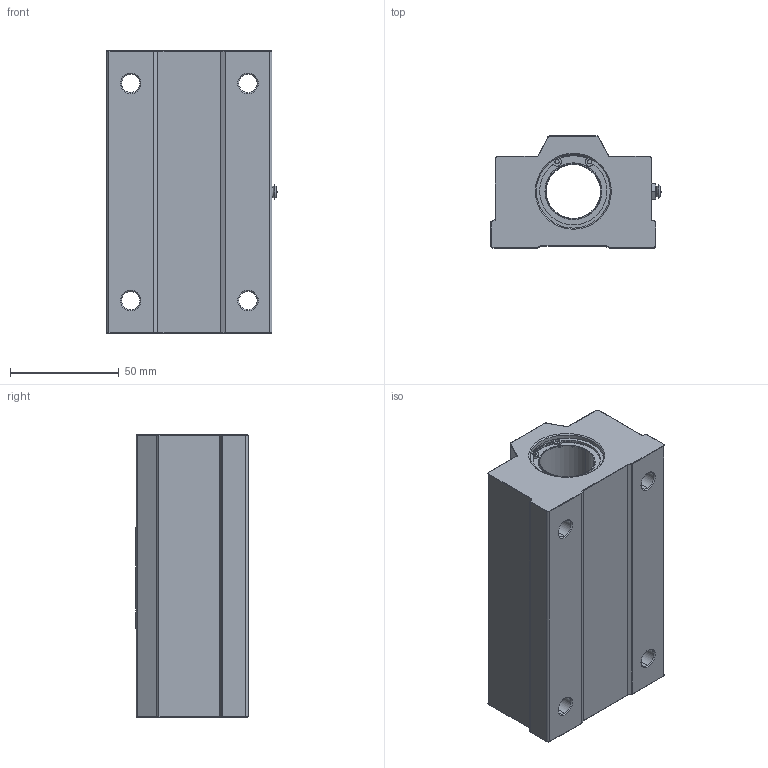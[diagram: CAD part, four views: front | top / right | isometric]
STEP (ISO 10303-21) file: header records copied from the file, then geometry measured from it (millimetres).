
FILE_DESCRIPTION (( 'STEP AP214' ), '1' );
FILE_NAME ('SC25LUU.STEP', '2020-09-28T10:19:10', ( '' ), ( '' ), 'SwSTEP 2.0', 'SolidWorks 2018', '' );
FILE_SCHEMA (( 'AUTOMOTIVE_DESIGN' ));
Length unit declared in the file: millimetre
Products named in the file (5): SC25LUU-04_5å4,5; SC25LUU-03; SC25LUU-02; SC25LUU-01; SC25LUU
Assembly tree (5 placements, depth 2):
  SC25LUU
    SC25LUU-01
    SC25LUU-02
    SC25LUU-03  x2
    SC25LUU-04_5å4,5
Bounding box: 78.45 x 51.6 x 130 mm (x, y, z)
Volume: 354139.4 mm3; surface area: 80092.4 mm2
Topology: 6 solids, 6 shells, 405 faces, 984 edges, 610 vertices
Faces by surface type: plane 161, cylinder 114, torus 48, bspline 38, cone 34, sphere 10
Entity records: 15197 total; most frequent: CARTESIAN_POINT 4241, DIRECTION 1874, ORIENTED_EDGE 1856, EDGE_CURVE 928, AXIS2_PLACEMENT_3D 664, VERTEX_POINT 577, VECTOR 546, LINE 546
